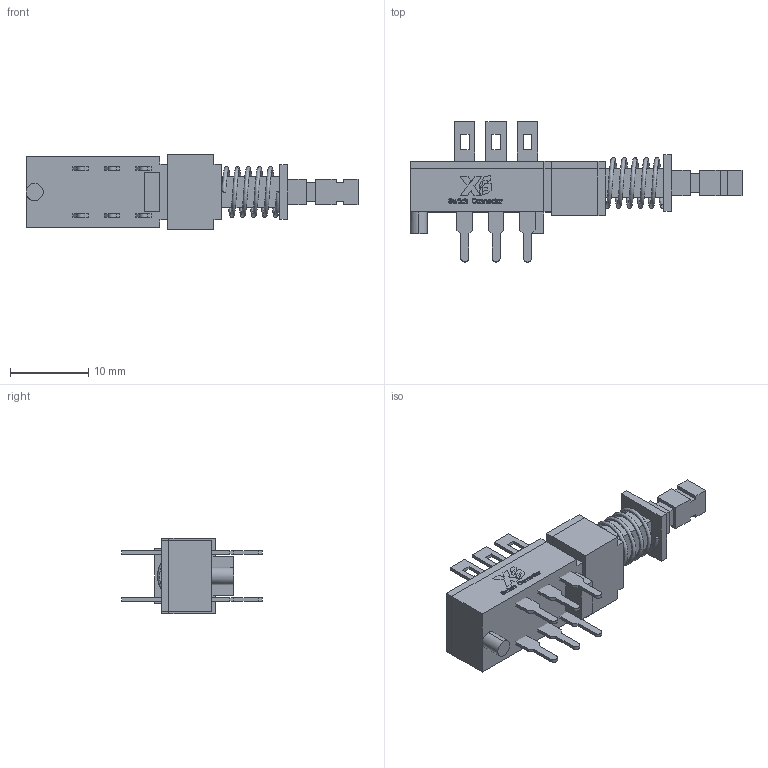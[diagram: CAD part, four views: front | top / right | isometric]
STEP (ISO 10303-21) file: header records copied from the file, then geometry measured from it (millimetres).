
FILE_DESCRIPTION(/* description */ (''),/* implementation_level */ '2;1');
FILE_NAME(/* name */ 'XB9AD2~1',/* time_stamp */ '2024-04-16T16:37:13+08:00',/* author */ (''),/* organization */ (''),/* preprocessor_version */ 'ST-DEVELOPER v16.5',/* originating_system */ '',/* authorisation */ '');
FILE_SCHEMA (('AUTOMOTIVE_DESIGN'));
Length unit declared in the file: millimetre
Products named in the file (1): Document
Bounding box: 42.4 x 17.9 x 9.7 mm (x, y, z)
Volume: 1898.2 mm3; surface area: 2579.8 mm2
Topology: 48 solids, 48 shells, 972 faces, 2474 edges, 1649 vertices
Faces by surface type: bspline 602, plane 370
Entity records: 35205 total; most frequent: CARTESIAN_POINT 18480, ORIENTED_EDGE 4948, EDGE_CURVE 2474, B_SPLINE_CURVE_WITH_KNOTS 2359, VERTEX_POINT 1649, EDGE_LOOP 1051, ADVANCED_FACE 972, FACE_OUTER_BOUND 972
